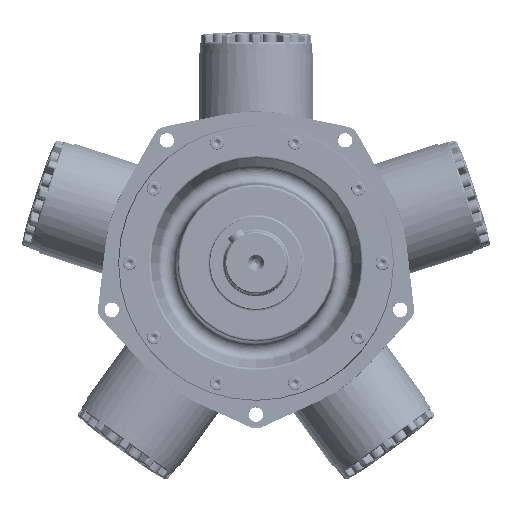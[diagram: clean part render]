
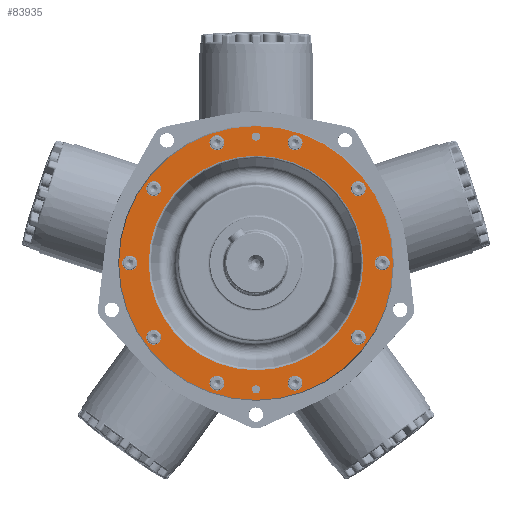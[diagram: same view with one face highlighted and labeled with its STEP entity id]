
A CAD part, top view. The second image highlights one B-rep face of the part: STEP entity #83935.
In plain terms, the highlighted planar face has unit normal (0, 0, 1).
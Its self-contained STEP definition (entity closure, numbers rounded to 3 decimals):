
#83377=CARTESIAN_POINT('',(0.,148.273,69.151));
#83378=VERTEX_POINT('',#83377);
#83379=CARTESIAN_POINT('',(0.0,0.0,69.151));
#83380=DIRECTION('',(0.0,0.0,1.0));
#83381=DIRECTION('',(0.0,-1.0,0.0));
#83382=AXIS2_PLACEMENT_3D('',#83379,#83380,#83381);
#83383=CIRCLE('',#83382,148.273);
#83384=EDGE_CURVE('',#83378,#83378,#83383,.T.);
#83784=CARTESIAN_POINT('',(0.,169.862,69.151));
#83785=DIRECTION('',(0.0,0.0,1.0));
#83786=DIRECTION('',(1.0,0.0,0.0));
#83787=AXIS2_PLACEMENT_3D('',#83784,#83785,#83786);
#83788=PLANE('',#83787);
#83789=CARTESIAN_POINT('',(0.,-189.176,69.151));
#83790=VERTEX_POINT('',#83789);
#83791=CARTESIAN_POINT('',(0.0,0.0,69.151));
#83792=DIRECTION('',(0.0,0.0,-1.0));
#83793=DIRECTION('',(0.0,1.0,0.0));
#83794=AXIS2_PLACEMENT_3D('',#83791,#83792,#83793);
#83795=CIRCLE('',#83794,189.176);
#83796=EDGE_CURVE('',#83790,#83790,#83795,.T.);
#83797=ORIENTED_EDGE('',*,*,#83796,.F.);
#83798=EDGE_LOOP('',(#83797));
#83799=FACE_OUTER_BOUND('',#83798,.T.);
#83800=CARTESIAN_POINT('',(62.31,160.013,69.151));
#83801=VERTEX_POINT('',#83800);
#83802=CARTESIAN_POINT('',(53.962,166.078,69.151));
#83803=DIRECTION('',(0.0,0.0,-1.0));
#83804=DIRECTION('',(0.809,-0.588,0.0));
#83805=AXIS2_PLACEMENT_3D('',#83802,#83803,#83804);
#83806=CIRCLE('',#83805,10.319);
#83807=EDGE_CURVE('',#83801,#83801,#83806,.T.);
#83808=ORIENTED_EDGE('',*,*,#83807,.T.);
#83809=EDGE_LOOP('',(#83808));
#83810=FACE_BOUND('',#83809,.T.);
#83811=CARTESIAN_POINT('',(144.463,92.828,69.151));
#83812=VERTEX_POINT('',#83811);
#83813=CARTESIAN_POINT('',(141.275,102.642,69.151));
#83814=DIRECTION('',(0.0,0.0,-1.0));
#83815=DIRECTION('',(0.309,-0.951,0.0));
#83816=AXIS2_PLACEMENT_3D('',#83813,#83814,#83815);
#83817=CIRCLE('',#83816,10.319);
#83818=EDGE_CURVE('',#83812,#83812,#83817,.T.);
#83819=ORIENTED_EDGE('',*,*,#83818,.T.);
#83820=EDGE_LOOP('',(#83819));
#83821=FACE_BOUND('',#83820,.T.);
#83822=CARTESIAN_POINT('',(171.436,-9.814,69.151));
#83823=VERTEX_POINT('',#83822);
#83824=CARTESIAN_POINT('',(174.625,0.,69.151));
#83825=DIRECTION('',(0.0,0.0,-1.0));
#83826=DIRECTION('',(-0.309,-0.951,0.0));
#83827=AXIS2_PLACEMENT_3D('',#83824,#83825,#83826);
#83828=CIRCLE('',#83827,10.319);
#83829=EDGE_CURVE('',#83823,#83823,#83828,.T.);
#83830=ORIENTED_EDGE('',*,*,#83829,.T.);
#83831=EDGE_LOOP('',(#83830));
#83832=FACE_BOUND('',#83831,.T.);
#83833=CARTESIAN_POINT('',(132.927,-108.707,69.151));
#83834=VERTEX_POINT('',#83833);
#83835=CARTESIAN_POINT('',(141.275,-102.642,69.151));
#83836=DIRECTION('',(0.0,0.0,-1.0));
#83837=DIRECTION('',(-0.809,-0.588,0.0));
#83838=AXIS2_PLACEMENT_3D('',#83835,#83836,#83837);
#83839=CIRCLE('',#83838,10.319);
#83840=EDGE_CURVE('',#83834,#83834,#83839,.T.);
#83841=ORIENTED_EDGE('',*,*,#83840,.T.);
#83842=EDGE_LOOP('',(#83841));
#83843=FACE_BOUND('',#83842,.T.);
#83844=CARTESIAN_POINT('',(43.643,-166.078,69.151));
#83845=VERTEX_POINT('',#83844);
#83846=CARTESIAN_POINT('',(53.962,-166.078,69.151));
#83847=DIRECTION('',(0.0,0.0,-1.0));
#83848=DIRECTION('',(-1.0,0.0,0.0));
#83849=AXIS2_PLACEMENT_3D('',#83846,#83847,#83848);
#83850=CIRCLE('',#83849,10.319);
#83851=EDGE_CURVE('',#83845,#83845,#83850,.T.);
#83852=ORIENTED_EDGE('',*,*,#83851,.T.);
#83853=EDGE_LOOP('',(#83852));
#83854=FACE_BOUND('',#83853,.T.);
#83855=CARTESIAN_POINT('',(-62.31,-160.013,69.151));
#83856=VERTEX_POINT('',#83855);
#83857=CARTESIAN_POINT('',(-53.962,-166.078,69.151));
#83858=DIRECTION('',(0.0,0.0,-1.0));
#83859=DIRECTION('',(-0.809,0.588,0.0));
#83860=AXIS2_PLACEMENT_3D('',#83857,#83858,#83859);
#83861=CIRCLE('',#83860,10.319);
#83862=EDGE_CURVE('',#83856,#83856,#83861,.T.);
#83863=ORIENTED_EDGE('',*,*,#83862,.T.);
#83864=EDGE_LOOP('',(#83863));
#83865=FACE_BOUND('',#83864,.T.);
#83866=CARTESIAN_POINT('',(-144.463,-92.828,69.151));
#83867=VERTEX_POINT('',#83866);
#83868=CARTESIAN_POINT('',(-141.275,-102.642,69.151));
#83869=DIRECTION('',(0.0,0.0,-1.0));
#83870=DIRECTION('',(-0.309,0.951,0.0));
#83871=AXIS2_PLACEMENT_3D('',#83868,#83869,#83870);
#83872=CIRCLE('',#83871,10.319);
#83873=EDGE_CURVE('',#83867,#83867,#83872,.T.);
#83874=ORIENTED_EDGE('',*,*,#83873,.T.);
#83875=EDGE_LOOP('',(#83874));
#83876=FACE_BOUND('',#83875,.T.);
#83877=CARTESIAN_POINT('',(-171.436,9.814,69.151));
#83878=VERTEX_POINT('',#83877);
#83879=CARTESIAN_POINT('',(-174.625,0.,69.151));
#83880=DIRECTION('',(0.0,0.0,-1.0));
#83881=DIRECTION('',(0.309,0.951,0.0));
#83882=AXIS2_PLACEMENT_3D('',#83879,#83880,#83881);
#83883=CIRCLE('',#83882,10.319);
#83884=EDGE_CURVE('',#83878,#83878,#83883,.T.);
#83885=ORIENTED_EDGE('',*,*,#83884,.T.);
#83886=EDGE_LOOP('',(#83885));
#83887=FACE_BOUND('',#83886,.T.);
#83888=CARTESIAN_POINT('',(-132.927,108.707,69.151));
#83889=VERTEX_POINT('',#83888);
#83890=CARTESIAN_POINT('',(-141.275,102.642,69.151));
#83891=DIRECTION('',(0.0,0.0,-1.0));
#83892=DIRECTION('',(0.809,0.588,0.0));
#83893=AXIS2_PLACEMENT_3D('',#83890,#83891,#83892);
#83894=CIRCLE('',#83893,10.319);
#83895=EDGE_CURVE('',#83889,#83889,#83894,.T.);
#83896=ORIENTED_EDGE('',*,*,#83895,.T.);
#83897=EDGE_LOOP('',(#83896));
#83898=FACE_BOUND('',#83897,.T.);
#83899=CARTESIAN_POINT('',(-43.643,166.078,69.151));
#83900=VERTEX_POINT('',#83899);
#83901=CARTESIAN_POINT('',(-53.962,166.078,69.151));
#83902=DIRECTION('',(0.0,0.0,-1.0));
#83903=DIRECTION('',(1.0,0.0,0.0));
#83904=AXIS2_PLACEMENT_3D('',#83901,#83902,#83903);
#83905=CIRCLE('',#83904,10.319);
#83906=EDGE_CURVE('',#83900,#83900,#83905,.T.);
#83907=ORIENTED_EDGE('',*,*,#83906,.T.);
#83908=EDGE_LOOP('',(#83907));
#83909=FACE_BOUND('',#83908,.T.);
#83910=CARTESIAN_POINT('',(-5.664,-174.625,69.151));
#83911=VERTEX_POINT('',#83910);
#83912=CARTESIAN_POINT('',(0.,-174.625,69.151));
#83913=DIRECTION('',(0.0,0.0,-1.0));
#83914=DIRECTION('',(-1.0,0.0,0.0));
#83915=AXIS2_PLACEMENT_3D('',#83912,#83913,#83914);
#83916=CIRCLE('',#83915,5.664);
#83917=EDGE_CURVE('',#83911,#83911,#83916,.T.);
#83918=ORIENTED_EDGE('',*,*,#83917,.T.);
#83919=EDGE_LOOP('',(#83918));
#83920=FACE_BOUND('',#83919,.T.);
#83921=CARTESIAN_POINT('',(5.664,174.625,69.151));
#83922=VERTEX_POINT('',#83921);
#83923=CARTESIAN_POINT('',(0.,174.625,69.151));
#83924=DIRECTION('',(0.0,0.0,-1.0));
#83925=DIRECTION('',(1.0,0.0,0.0));
#83926=AXIS2_PLACEMENT_3D('',#83923,#83924,#83925);
#83927=CIRCLE('',#83926,5.664);
#83928=EDGE_CURVE('',#83922,#83922,#83927,.T.);
#83929=ORIENTED_EDGE('',*,*,#83928,.T.);
#83930=EDGE_LOOP('',(#83929));
#83931=FACE_BOUND('',#83930,.T.);
#83932=ORIENTED_EDGE('',*,*,#83384,.F.);
#83933=EDGE_LOOP('',(#83932));
#83934=FACE_BOUND('',#83933,.T.);
#83935=ADVANCED_FACE('',(#83799,#83810,#83821,#83832,#83843,#83854,#83865,#83876,#83887,#83898,#83909,#83920,#83931,#83934),#83788,.T.);
